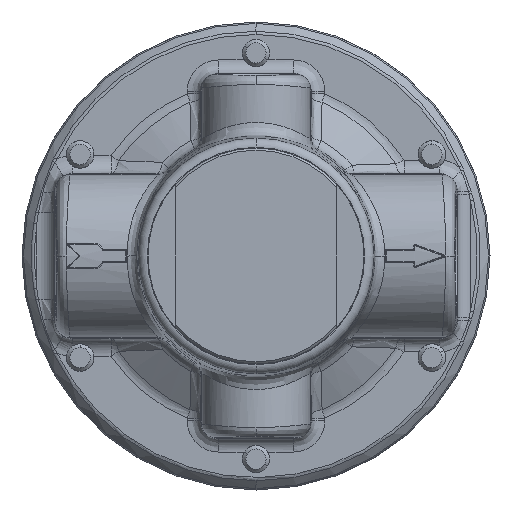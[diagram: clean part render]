
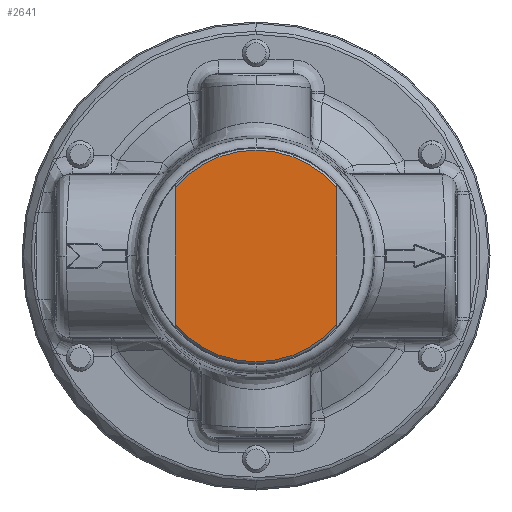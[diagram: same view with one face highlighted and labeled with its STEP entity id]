
A CAD part, front view. The second image highlights one B-rep face of the part: STEP entity #2641.
In plain terms, the highlighted planar face has unit normal (0, -1, 0).
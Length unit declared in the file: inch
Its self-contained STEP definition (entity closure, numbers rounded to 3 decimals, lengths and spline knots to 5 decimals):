
#1450 = VECTOR ( 'NONE', #16599, 39.37008 ) ;
#1452 = CIRCLE ( 'NONE', #1454, 0.7325 ) ;
#1453 = VECTOR ( 'NONE', #16603, 39.37008 ) ;
#1454 = AXIS2_PLACEMENT_3D ( 'NONE', #16600, #16601, #16602 ) ;
#1577 = VERTEX_POINT ( 'NONE', #11709 ) ;
#1582 = VERTEX_POINT ( 'NONE', #11714 ) ;
#1584 = VERTEX_POINT ( 'NONE', #11716 ) ;
#1585 = VERTEX_POINT ( 'NONE', #11717 ) ;
#1595 = EDGE_LOOP ( 'NONE', ( #11507, #11508, #11509, #11510 ) ) ;
#2180 = EDGE_CURVE ( 'NONE', #1585, #1577, #10569, .T. ) ;
#2641 = ADVANCED_FACE ( 'NONE', ( #19690 ), #19691, .T. ) ;
#10566 = AXIS2_PLACEMENT_3D ( 'NONE', #11782, #11783, #11784 ) ;
#10569 = CIRCLE ( 'NONE', #10566, 0.7325 ) ;
#11507 = ORIENTED_EDGE ( 'NONE', *, *, #17808, .F. ) ;
#11508 = ORIENTED_EDGE ( 'NONE', *, *, #17809, .T. ) ;
#11509 = ORIENTED_EDGE ( 'NONE', *, *, #17810, .T. ) ;
#11510 = ORIENTED_EDGE ( 'NONE', *, *, #2180, .T. ) ;
#11709 = CARTESIAN_POINT ( 'NONE',  ( -0.55875, -1.906, 0.47366 ) ) ;
#11714 = CARTESIAN_POINT ( 'NONE',  ( -0.55875, -1.906, -0.47366 ) ) ;
#11716 = CARTESIAN_POINT ( 'NONE',  ( 0.55875, -1.906, -0.47366 ) ) ;
#11717 = CARTESIAN_POINT ( 'NONE',  ( 0.55875, -1.906, 0.47366 ) ) ;
#11782 = CARTESIAN_POINT ( 'NONE',  ( 0., -1.906, 0. ) ) ;
#11783 = DIRECTION ( 'NONE',  ( 0., -1., 0. ) ) ;
#11784 = DIRECTION ( 'NONE',  ( 1., 0., 0. ) ) ;
#16589 = LINE ( 'NONE', #16590, #1450 ) ;
#16590 = CARTESIAN_POINT ( 'NONE',  ( -0.55875, -1.906, 0. ) ) ;
#16594 = LINE ( 'NONE', #16595, #1453 ) ;
#16595 = CARTESIAN_POINT ( 'NONE',  ( 0.55875, -1.906, 0. ) ) ;
#16599 = DIRECTION ( 'NONE',  ( 0., 0., 1. ) ) ;
#16600 = CARTESIAN_POINT ( 'NONE',  ( 0., -1.906, 0. ) ) ;
#16601 = DIRECTION ( 'NONE',  ( 0., -1., 0. ) ) ;
#16602 = DIRECTION ( 'NONE',  ( 1., 0., 0. ) ) ;
#16603 = DIRECTION ( 'NONE',  ( 0., 0., 1. ) ) ;
#17111 = AXIS2_PLACEMENT_3D ( 'NONE', #19687, #19693, #19694 ) ;
#17808 = EDGE_CURVE ( 'NONE', #1582, #1577, #16589, .T. ) ;
#17809 = EDGE_CURVE ( 'NONE', #1582, #1584, #1452, .T. ) ;
#17810 = EDGE_CURVE ( 'NONE', #1584, #1585, #16594, .T. ) ;
#19687 = CARTESIAN_POINT ( 'NONE',  ( 0., -1.906, 0. ) ) ;
#19690 = FACE_OUTER_BOUND ( 'NONE', #1595, .T. ) ;
#19691 = PLANE ( 'NONE',  #17111 ) ;
#19693 = DIRECTION ( 'NONE',  ( 0., -1., 0. ) ) ;
#19694 = DIRECTION ( 'NONE',  ( 1., 0., 0. ) ) ;
